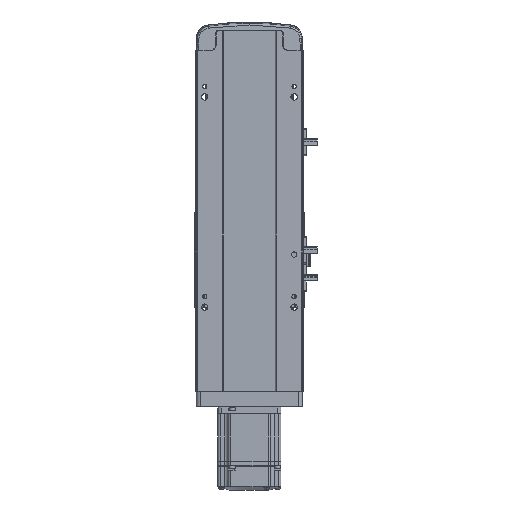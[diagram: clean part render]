
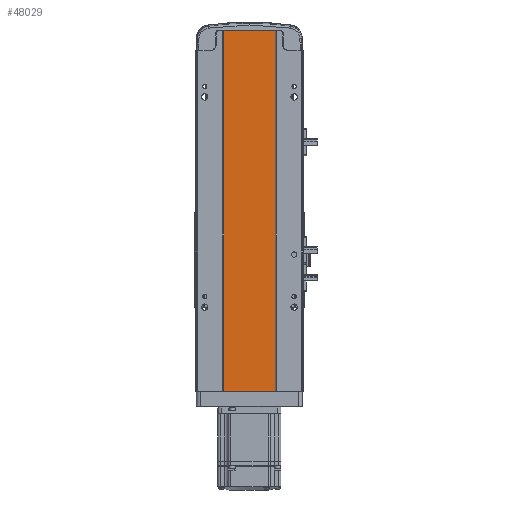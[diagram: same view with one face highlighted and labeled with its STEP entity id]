
A CAD part, front view. The second image highlights one B-rep face of the part: STEP entity #48029.
In plain terms, the highlighted planar face has unit normal (0, -1, 0).
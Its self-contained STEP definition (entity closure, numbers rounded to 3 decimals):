
#94 = CARTESIAN_POINT ( 'NONE',  ( 0., 2., 0. ) ) ;
#1429 = ORIENTED_EDGE ( 'NONE', *, *, #15334, .T. ) ;
#1454 = LINE ( 'NONE', #12121, #37971 ) ;
#7135 = CARTESIAN_POINT ( 'NONE',  ( -24.5, 2., 343. ) ) ;
#8605 = LINE ( 'NONE', #54529, #54967 ) ;
#11291 = EDGE_CURVE ( 'NONE', #16547, #15925, #55614, .T. ) ;
#11657 = DIRECTION ( 'NONE',  ( 1., 0., 0. ) ) ;
#12121 = CARTESIAN_POINT ( 'NONE',  ( 24.5, 2., 343. ) ) ;
#15156 = ORIENTED_EDGE ( 'NONE', *, *, #36659, .F. ) ;
#15334 = EDGE_CURVE ( 'NONE', #52798, #32753, #42752, .T. ) ;
#15925 = VERTEX_POINT ( 'NONE', #57275 ) ;
#16547 = VERTEX_POINT ( 'NONE', #36568 ) ;
#17777 = DIRECTION ( 'NONE',  ( 1., 0., 0. ) ) ;
#20203 = PLANE ( 'NONE',  #55718 ) ;
#21899 = VECTOR ( 'NONE', #11657, 1000. ) ;
#21960 = EDGE_LOOP ( 'NONE', ( #1429, #15156, #31708, #22201 ) ) ;
#22201 = ORIENTED_EDGE ( 'NONE', *, *, #53778, .T. ) ;
#24706 = DIRECTION ( 'NONE',  ( 0., 1., 0. ) ) ;
#29011 = CARTESIAN_POINT ( 'NONE',  ( 0., 2., 343. ) ) ;
#31708 = ORIENTED_EDGE ( 'NONE', *, *, #11291, .F. ) ;
#32753 = VERTEX_POINT ( 'NONE', #43222 ) ;
#36042 = FACE_OUTER_BOUND ( 'NONE', #21960, .T. ) ;
#36568 = CARTESIAN_POINT ( 'NONE',  ( -24.5, 2., 343. ) ) ;
#36659 = EDGE_CURVE ( 'NONE', #15925, #32753, #1454, .T. ) ;
#37971 = VECTOR ( 'NONE', #38808, 1000. ) ;
#38808 = DIRECTION ( 'NONE',  ( 0., 0., -1. ) ) ;
#41324 = VECTOR ( 'NONE', #17777, 1000. ) ;
#42362 = DIRECTION ( 'NONE',  ( 0., 0., 1. ) ) ;
#42752 = LINE ( 'NONE', #94, #41324 ) ;
#43222 = CARTESIAN_POINT ( 'NONE',  ( 24.5, 2., 0. ) ) ;
#48029 = ADVANCED_FACE ( 'NONE', ( #36042 ), #20203, .F. ) ;
#49149 = CARTESIAN_POINT ( 'NONE',  ( -24.5, 2., 0. ) ) ;
#50001 = DIRECTION ( 'NONE',  ( 0., 0., -1. ) ) ;
#52798 = VERTEX_POINT ( 'NONE', #49149 ) ;
#53778 = EDGE_CURVE ( 'NONE', #16547, #52798, #8605, .T. ) ;
#54529 = CARTESIAN_POINT ( 'NONE',  ( -24.5, 2., 343. ) ) ;
#54967 = VECTOR ( 'NONE', #50001, 1000. ) ;
#55614 = LINE ( 'NONE', #7135, #21899 ) ;
#55718 = AXIS2_PLACEMENT_3D ( 'NONE', #29011, #24706, #42362 ) ;
#57275 = CARTESIAN_POINT ( 'NONE',  ( 24.5, 2., 343. ) ) ;
